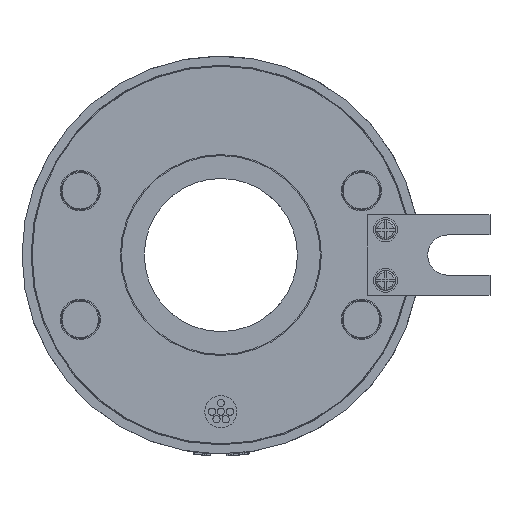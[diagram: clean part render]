
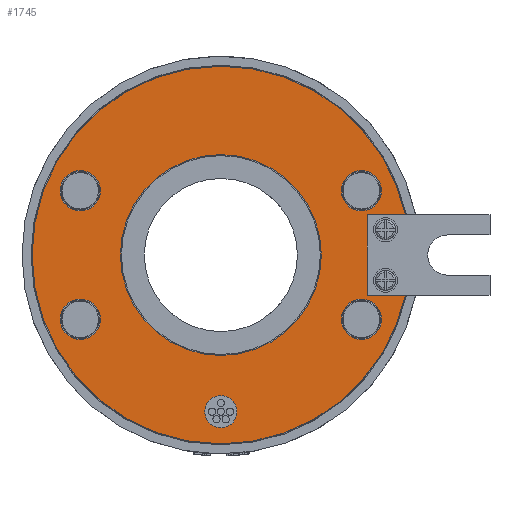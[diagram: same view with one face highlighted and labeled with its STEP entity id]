
A CAD part, front view. The second image highlights one B-rep face of the part: STEP entity #1745.
In plain terms, the highlighted planar face has unit normal (0, -1, 0).
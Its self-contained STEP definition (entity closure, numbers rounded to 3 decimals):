
#292=FACE_BOUND('',#3396,.T.);
#293=FACE_BOUND('',#3397,.T.);
#294=FACE_BOUND('',#3398,.T.);
#295=FACE_BOUND('',#3399,.T.);
#296=FACE_BOUND('',#3400,.T.);
#297=FACE_BOUND('',#3401,.T.);
#298=FACE_BOUND('',#3402,.T.);
#492=CIRCLE('',#10004,47.);
#493=CIRCLE('',#10005,47.);
#494=CIRCLE('',#10006,47.);
#495=CIRCLE('',#10007,4.);
#496=CIRCLE('',#10008,4.);
#497=CIRCLE('',#10009,25.);
#498=CIRCLE('',#10010,25.);
#499=CIRCLE('',#10011,5.);
#500=CIRCLE('',#10012,5.);
#501=CIRCLE('',#10013,5.);
#502=CIRCLE('',#10014,5.);
#503=CIRCLE('',#10015,5.);
#504=CIRCLE('',#10016,5.);
#505=CIRCLE('',#10017,5.);
#506=CIRCLE('',#10018,5.);
#1041=PLANE('',#10019);
#1259=LINE('',#32053,#2344);
#1260=LINE('',#32055,#2345);
#1261=LINE('',#32057,#2346);
#1745=ADVANCED_FACE('',(#292,#293,#294,#295,#296,#297,#298),#1041,.F.);
#2344=VECTOR('',#11389,1.);
#2345=VECTOR('',#11390,1.);
#2346=VECTOR('',#11391,1.);
#3396=EDGE_LOOP('',(#5086,#5087,#5088,#5089,#5090,#5091));
#3397=EDGE_LOOP('',(#5092,#5093));
#3398=EDGE_LOOP('',(#5094,#5095));
#3399=EDGE_LOOP('',(#5096,#5097));
#3400=EDGE_LOOP('',(#5098,#5099));
#3401=EDGE_LOOP('',(#5100,#5101));
#3402=EDGE_LOOP('',(#5102,#5103));
#5086=ORIENTED_EDGE('',*,*,#8329,.T.);
#5087=ORIENTED_EDGE('',*,*,#8330,.T.);
#5088=ORIENTED_EDGE('',*,*,#8331,.F.);
#5089=ORIENTED_EDGE('',*,*,#8332,.F.);
#5090=ORIENTED_EDGE('',*,*,#8333,.T.);
#5091=ORIENTED_EDGE('',*,*,#8334,.T.);
#5092=ORIENTED_EDGE('',*,*,#8335,.F.);
#5093=ORIENTED_EDGE('',*,*,#8336,.F.);
#5094=ORIENTED_EDGE('',*,*,#8337,.F.);
#5095=ORIENTED_EDGE('',*,*,#8338,.F.);
#5096=ORIENTED_EDGE('',*,*,#8339,.F.);
#5097=ORIENTED_EDGE('',*,*,#8340,.F.);
#5098=ORIENTED_EDGE('',*,*,#8341,.T.);
#5099=ORIENTED_EDGE('',*,*,#8342,.T.);
#5100=ORIENTED_EDGE('',*,*,#8343,.F.);
#5101=ORIENTED_EDGE('',*,*,#8344,.F.);
#5102=ORIENTED_EDGE('',*,*,#8345,.T.);
#5103=ORIENTED_EDGE('',*,*,#8346,.T.);
#7152=VERTEX_POINT('',#32051);
#7153=VERTEX_POINT('',#32052);
#7154=VERTEX_POINT('',#32054);
#7155=VERTEX_POINT('',#32056);
#7156=VERTEX_POINT('',#32058);
#7157=VERTEX_POINT('',#32060);
#7158=VERTEX_POINT('',#32063);
#7159=VERTEX_POINT('',#32064);
#7160=VERTEX_POINT('',#32067);
#7161=VERTEX_POINT('',#32068);
#7162=VERTEX_POINT('',#32071);
#7163=VERTEX_POINT('',#32072);
#7164=VERTEX_POINT('',#32075);
#7165=VERTEX_POINT('',#32076);
#7166=VERTEX_POINT('',#32079);
#7167=VERTEX_POINT('',#32080);
#7168=VERTEX_POINT('',#32083);
#7169=VERTEX_POINT('',#32084);
#8329=EDGE_CURVE('',#7152,#7153,#492,.T.);
#8330=EDGE_CURVE('',#7153,#7154,#1259,.T.);
#8331=EDGE_CURVE('',#7155,#7154,#1260,.T.);
#8332=EDGE_CURVE('',#7156,#7155,#1261,.T.);
#8333=EDGE_CURVE('',#7156,#7157,#493,.T.);
#8334=EDGE_CURVE('',#7157,#7152,#494,.T.);
#8335=EDGE_CURVE('',#7158,#7159,#495,.T.);
#8336=EDGE_CURVE('',#7159,#7158,#496,.T.);
#8337=EDGE_CURVE('',#7160,#7161,#497,.T.);
#8338=EDGE_CURVE('',#7161,#7160,#498,.T.);
#8339=EDGE_CURVE('',#7162,#7163,#499,.T.);
#8340=EDGE_CURVE('',#7163,#7162,#500,.T.);
#8341=EDGE_CURVE('',#7164,#7165,#501,.T.);
#8342=EDGE_CURVE('',#7165,#7164,#502,.T.);
#8343=EDGE_CURVE('',#7166,#7167,#503,.T.);
#8344=EDGE_CURVE('',#7167,#7166,#504,.T.);
#8345=EDGE_CURVE('',#7168,#7169,#505,.T.);
#8346=EDGE_CURVE('',#7169,#7168,#506,.T.);
#10004=AXIS2_PLACEMENT_3D('',#32050,#11387,#11388);
#10005=AXIS2_PLACEMENT_3D('',#32059,#11392,#11393);
#10006=AXIS2_PLACEMENT_3D('',#32061,#11394,#11395);
#10007=AXIS2_PLACEMENT_3D('',#32062,#11396,#11397);
#10008=AXIS2_PLACEMENT_3D('',#32065,#11398,#11399);
#10009=AXIS2_PLACEMENT_3D('',#32066,#11400,#11401);
#10010=AXIS2_PLACEMENT_3D('',#32069,#11402,#11403);
#10011=AXIS2_PLACEMENT_3D('',#32070,#11404,#11405);
#10012=AXIS2_PLACEMENT_3D('',#32073,#11406,#11407);
#10013=AXIS2_PLACEMENT_3D('',#32074,#11408,#11409);
#10014=AXIS2_PLACEMENT_3D('',#32077,#11410,#11411);
#10015=AXIS2_PLACEMENT_3D('',#32078,#11412,#11413);
#10016=AXIS2_PLACEMENT_3D('',#32081,#11414,#11415);
#10017=AXIS2_PLACEMENT_3D('',#32082,#11416,#11417);
#10018=AXIS2_PLACEMENT_3D('',#32085,#11418,#11419);
#10019=AXIS2_PLACEMENT_3D('',#32086,#11420,#11421);
#11387=DIRECTION('',(0.,-1.,0.));
#11388=DIRECTION('',(0.,0.,-1.));
#11389=DIRECTION('',(-1.,0.,0.));
#11390=DIRECTION('',(0.,0.,-1.));
#11391=DIRECTION('',(-1.,0.,0.));
#11392=DIRECTION('',(0.,-1.,0.));
#11393=DIRECTION('',(0.977,0.,0.213));
#11394=DIRECTION('',(0.,-1.,0.));
#11395=DIRECTION('',(0.,0.,1.));
#11396=DIRECTION('',(0.,-1.,0.));
#11397=DIRECTION('',(-1.,0.,0.));
#11398=DIRECTION('',(0.,-1.,0.));
#11399=DIRECTION('',(1.,0.,0.));
#11400=DIRECTION('',(0.,-1.,0.));
#11401=DIRECTION('',(-1.,0.,0.));
#11402=DIRECTION('',(0.,-1.,0.));
#11403=DIRECTION('',(1.,0.,0.));
#11404=DIRECTION('',(0.,-1.,0.));
#11405=DIRECTION('',(0.,0.,1.));
#11406=DIRECTION('',(0.,-1.,0.));
#11407=DIRECTION('',(0.,0.,-1.));
#11408=DIRECTION('',(0.,1.,0.));
#11409=DIRECTION('',(0.,0.,1.));
#11410=DIRECTION('',(0.,1.,0.));
#11411=DIRECTION('',(0.,0.,-1.));
#11412=DIRECTION('',(0.,-1.,0.));
#11413=DIRECTION('',(0.,0.,-1.));
#11414=DIRECTION('',(0.,-1.,0.));
#11415=DIRECTION('',(0.,0.,1.));
#11416=DIRECTION('',(0.,1.,0.));
#11417=DIRECTION('',(0.,0.,-1.));
#11418=DIRECTION('',(0.,1.,0.));
#11419=DIRECTION('',(0.,0.,1.));
#11420=DIRECTION('',(0.,1.,0.));
#11421=DIRECTION('',(-1.,0.,0.));
#32050=CARTESIAN_POINT('',(0.,0.,0.));
#32051=CARTESIAN_POINT('',(0.,0.,-47.));
#32052=CARTESIAN_POINT('',(45.924,0.,-10.));
#32053=CARTESIAN_POINT('',(45.924,0.,-10.));
#32054=CARTESIAN_POINT('',(36.5,0.,-10.));
#32055=CARTESIAN_POINT('',(36.5,0.,10.));
#32056=CARTESIAN_POINT('',(36.5,0.,10.));
#32057=CARTESIAN_POINT('',(45.924,0.,10.));
#32058=CARTESIAN_POINT('',(45.924,0.,10.));
#32059=CARTESIAN_POINT('',(0.,0.,0.));
#32060=CARTESIAN_POINT('',(0.,0.,47.));
#32061=CARTESIAN_POINT('',(0.,0.,0.));
#32062=CARTESIAN_POINT('',(0.,0.,-39.));
#32063=CARTESIAN_POINT('',(-4.,0.,-39.));
#32064=CARTESIAN_POINT('',(4.,0.,-39.));
#32065=CARTESIAN_POINT('',(0.,0.,-39.));
#32066=CARTESIAN_POINT('',(0.,0.,0.));
#32067=CARTESIAN_POINT('',(-25.,0.,0.));
#32068=CARTESIAN_POINT('',(25.,0.,0.));
#32069=CARTESIAN_POINT('',(0.,0.,0.));
#32070=CARTESIAN_POINT('',(35.,0.,16.));
#32071=CARTESIAN_POINT('',(35.,0.,21.));
#32072=CARTESIAN_POINT('',(35.,0.,11.));
#32073=CARTESIAN_POINT('',(35.,0.,16.));
#32074=CARTESIAN_POINT('',(-35.,0.,16.));
#32075=CARTESIAN_POINT('',(-35.,0.,21.));
#32076=CARTESIAN_POINT('',(-35.,0.,11.));
#32077=CARTESIAN_POINT('',(-35.,0.,16.));
#32078=CARTESIAN_POINT('',(-35.,0.,-16.));
#32079=CARTESIAN_POINT('',(-35.,0.,-21.));
#32080=CARTESIAN_POINT('',(-35.,0.,-11.));
#32081=CARTESIAN_POINT('',(-35.,0.,-16.));
#32082=CARTESIAN_POINT('',(35.,0.,-16.));
#32083=CARTESIAN_POINT('',(35.,0.,-21.));
#32084=CARTESIAN_POINT('',(35.,0.,-11.));
#32085=CARTESIAN_POINT('',(35.,0.,-16.));
#32086=CARTESIAN_POINT('',(0.,0.,0.));
